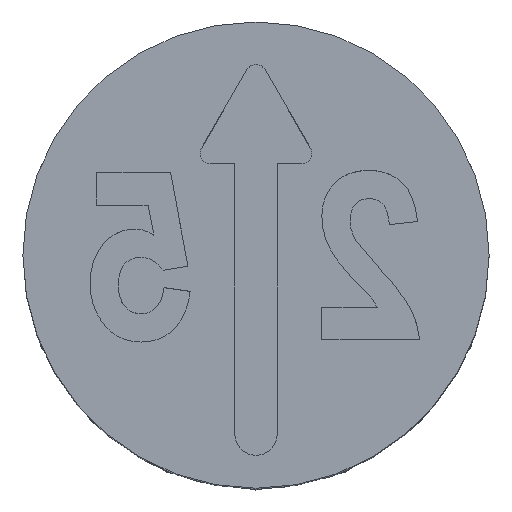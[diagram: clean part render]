
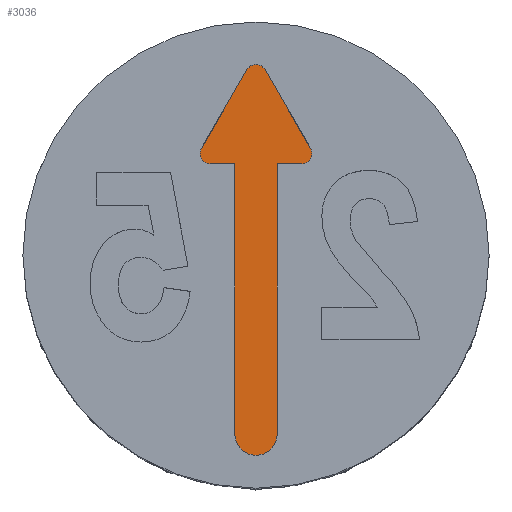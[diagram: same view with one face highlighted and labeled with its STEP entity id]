
A CAD part, top view. The second image highlights one B-rep face of the part: STEP entity #3036.
In plain terms, the highlighted planar face has unit normal (0, 0, 1).
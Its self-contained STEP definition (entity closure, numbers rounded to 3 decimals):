
#22 = AXIS2_PLACEMENT_3D ( 'NONE', #893, #2640, #3358 ) ;
#91 = CIRCLE ( 'NONE', #1499, 0.05 ) ;
#120 = CARTESIAN_POINT ( 'NONE',  ( -0.263, 0.48, -0.4 ) ) ;
#135 = CARTESIAN_POINT ( 'NONE',  ( -0.213, 0.48, -0.4 ) ) ;
#163 = CARTESIAN_POINT ( 'NONE',  ( 0.1, -0.845, -0.4 ) ) ;
#171 = AXIS2_PLACEMENT_3D ( 'NONE', #2700, #1667, #1323 ) ;
#280 = EDGE_LOOP ( 'NONE', ( #1060, #1488, #2761, #2934, #3725, #713, #3893, #2979, #1543, #2706, #4225 ) ) ;
#346 = LINE ( 'NONE', #2035, #789 ) ;
#429 = DIRECTION ( 'NONE',  ( 0., 0., 1. ) ) ;
#507 = LINE ( 'NONE', #3391, #1447 ) ;
#650 = DIRECTION ( 'NONE',  ( 0., 1., 0. ) ) ;
#713 = ORIENTED_EDGE ( 'NONE', *, *, #721, .F. ) ;
#721 = EDGE_CURVE ( 'NONE', #2375, #3953, #1969, .T. ) ;
#789 = VECTOR ( 'NONE', #650, 1000. ) ;
#831 = VERTEX_POINT ( 'NONE', #1764 ) ;
#849 = LINE ( 'NONE', #3118, #2105 ) ;
#869 = CIRCLE ( 'NONE', #1767, 0.05 ) ;
#893 = CARTESIAN_POINT ( 'NONE',  ( 0., 0.85, -0.4 ) ) ;
#972 = AXIS2_PLACEMENT_3D ( 'NONE', #3445, #4137, #4479 ) ;
#1005 = DIRECTION ( 'NONE',  ( 1., 0., 0. ) ) ;
#1060 = ORIENTED_EDGE ( 'NONE', *, *, #2340, .T. ) ;
#1117 = EDGE_CURVE ( 'NONE', #3278, #4124, #1910, .T. ) ;
#1167 = CIRCLE ( 'NONE', #22, 0.05 ) ;
#1182 = DIRECTION ( 'NONE',  ( 1., 0., 0. ) ) ;
#1231 = CARTESIAN_POINT ( 'NONE',  ( -0.1, -0.845, -0.4 ) ) ;
#1286 = DIRECTION ( 'NONE',  ( -0.5, 0.866, 0. ) ) ;
#1323 = DIRECTION ( 'NONE',  ( 1., 0., 0. ) ) ;
#1360 = VECTOR ( 'NONE', #3515, 1000. ) ;
#1447 = VECTOR ( 'NONE', #1286, 1000. ) ;
#1488 = ORIENTED_EDGE ( 'NONE', *, *, #4186, .T. ) ;
#1492 = EDGE_CURVE ( 'NONE', #831, #2136, #1577, .T. ) ;
#1499 = AXIS2_PLACEMENT_3D ( 'NONE', #4022, #3699, #1588 ) ;
#1504 = CARTESIAN_POINT ( 'NONE',  ( 0., -0.845, -0.4 ) ) ;
#1543 = ORIENTED_EDGE ( 'NONE', *, *, #2728, .T. ) ;
#1577 = LINE ( 'NONE', #4191, #1360 ) ;
#1588 = DIRECTION ( 'NONE',  ( 1., 0., 0. ) ) ;
#1636 = VERTEX_POINT ( 'NONE', #1741 ) ;
#1667 = DIRECTION ( 'NONE',  ( 0., 0., 1. ) ) ;
#1670 = EDGE_CURVE ( 'NONE', #2472, #4420, #2163, .T. ) ;
#1741 = CARTESIAN_POINT ( 'NONE',  ( 0.257, 0.505, -0.4 ) ) ;
#1764 = CARTESIAN_POINT ( 'NONE',  ( -0.257, 0.505, -0.4 ) ) ;
#1767 = AXIS2_PLACEMENT_3D ( 'NONE', #135, #429, #1182 ) ;
#1799 = CARTESIAN_POINT ( 'NONE',  ( 0., 0.43, -0.4 ) ) ;
#1910 = CIRCLE ( 'NONE', #3695, 0.1 ) ;
#1969 = LINE ( 'NONE', #4190, #2183 ) ;
#2035 = CARTESIAN_POINT ( 'NONE',  ( 0.1, 0., -0.4 ) ) ;
#2105 = VECTOR ( 'NONE', #4072, 1000. ) ;
#2136 = VERTEX_POINT ( 'NONE', #4393 ) ;
#2163 = LINE ( 'NONE', #1799, #3223 ) ;
#2183 = VECTOR ( 'NONE', #3214, 1000. ) ;
#2340 = EDGE_CURVE ( 'NONE', #1636, #3383, #507, .T. ) ;
#2363 = CARTESIAN_POINT ( 'NONE',  ( -0.213, 0.43, -0.4 ) ) ;
#2375 = VERTEX_POINT ( 'NONE', #3421 ) ;
#2387 = CARTESIAN_POINT ( 'NONE',  ( 0.043, 0.875, -0.4 ) ) ;
#2396 = EDGE_CURVE ( 'NONE', #3278, #2375, #849, .T. ) ;
#2472 = VERTEX_POINT ( 'NONE', #3074 ) ;
#2508 = DIRECTION ( 'NONE',  ( 1., 0., 0. ) ) ;
#2640 = DIRECTION ( 'NONE',  ( 0., 0., 1. ) ) ;
#2700 = CARTESIAN_POINT ( 'NONE',  ( 0., 0., -0.4 ) ) ;
#2706 = ORIENTED_EDGE ( 'NONE', *, *, #1670, .T. ) ;
#2719 = FACE_OUTER_BOUND ( 'NONE', #280, .T. ) ;
#2728 = EDGE_CURVE ( 'NONE', #4124, #2472, #346, .T. ) ;
#2761 = ORIENTED_EDGE ( 'NONE', *, *, #1492, .F. ) ;
#2934 = ORIENTED_EDGE ( 'NONE', *, *, #3557, .T. ) ;
#2979 = ORIENTED_EDGE ( 'NONE', *, *, #1117, .T. ) ;
#3036 = ADVANCED_FACE ( 'NONE', ( #2719 ), #3792, .T. ) ;
#3074 = CARTESIAN_POINT ( 'NONE',  ( 0.1, 0.43, -0.4 ) ) ;
#3118 = CARTESIAN_POINT ( 'NONE',  ( -0.1, 0., -0.4 ) ) ;
#3128 = CIRCLE ( 'NONE', #972, 0.05 ) ;
#3214 = DIRECTION ( 'NONE',  ( -1., 0., 0. ) ) ;
#3223 = VECTOR ( 'NONE', #2508, 1000. ) ;
#3278 = VERTEX_POINT ( 'NONE', #1231 ) ;
#3304 = EDGE_CURVE ( 'NONE', #4420, #1636, #91, .T. ) ;
#3358 = DIRECTION ( 'NONE',  ( 1., 0., 0. ) ) ;
#3383 = VERTEX_POINT ( 'NONE', #2387 ) ;
#3391 = CARTESIAN_POINT ( 'NONE',  ( 0.411, 0.237, -0.4 ) ) ;
#3421 = CARTESIAN_POINT ( 'NONE',  ( -0.1, 0.43, -0.4 ) ) ;
#3445 = CARTESIAN_POINT ( 'NONE',  ( -0.213, 0.48, -0.4 ) ) ;
#3515 = DIRECTION ( 'NONE',  ( 0.5, 0.866, 0. ) ) ;
#3557 = EDGE_CURVE ( 'NONE', #831, #3644, #869, .T. ) ;
#3644 = VERTEX_POINT ( 'NONE', #120 ) ;
#3695 = AXIS2_PLACEMENT_3D ( 'NONE', #1504, #4307, #1005 ) ;
#3699 = DIRECTION ( 'NONE',  ( 0., 0., 1. ) ) ;
#3725 = ORIENTED_EDGE ( 'NONE', *, *, #4278, .T. ) ;
#3792 = PLANE ( 'NONE',  #171 ) ;
#3813 = CARTESIAN_POINT ( 'NONE',  ( 0.213, 0.43, -0.4 ) ) ;
#3893 = ORIENTED_EDGE ( 'NONE', *, *, #2396, .F. ) ;
#3953 = VERTEX_POINT ( 'NONE', #2363 ) ;
#4022 = CARTESIAN_POINT ( 'NONE',  ( 0.213, 0.48, -0.4 ) ) ;
#4072 = DIRECTION ( 'NONE',  ( 0., 1., 0. ) ) ;
#4124 = VERTEX_POINT ( 'NONE', #163 ) ;
#4137 = DIRECTION ( 'NONE',  ( 0., 0., 1. ) ) ;
#4186 = EDGE_CURVE ( 'NONE', #3383, #2136, #1167, .T. ) ;
#4190 = CARTESIAN_POINT ( 'NONE',  ( 0., 0.43, -0.4 ) ) ;
#4191 = CARTESIAN_POINT ( 'NONE',  ( -0.411, 0.237, -0.4 ) ) ;
#4225 = ORIENTED_EDGE ( 'NONE', *, *, #3304, .T. ) ;
#4278 = EDGE_CURVE ( 'NONE', #3644, #3953, #3128, .T. ) ;
#4307 = DIRECTION ( 'NONE',  ( 0., 0., 1. ) ) ;
#4393 = CARTESIAN_POINT ( 'NONE',  ( -0.043, 0.875, -0.4 ) ) ;
#4420 = VERTEX_POINT ( 'NONE', #3813 ) ;
#4479 = DIRECTION ( 'NONE',  ( 1., 0., 0. ) ) ;
